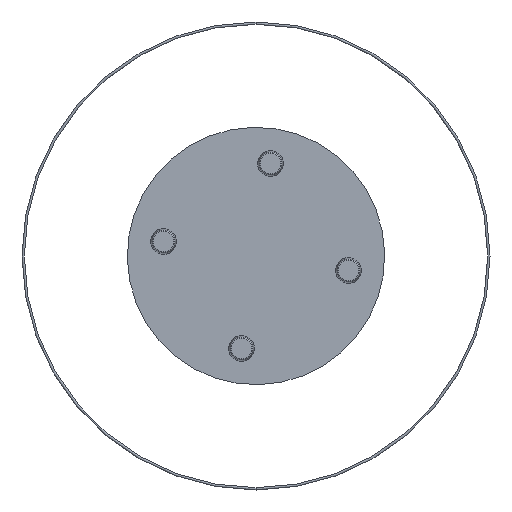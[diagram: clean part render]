
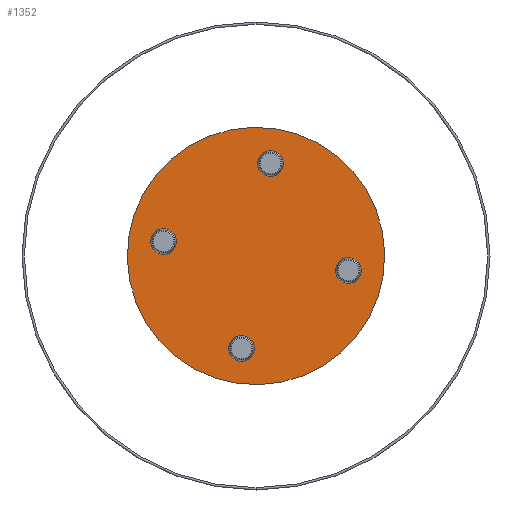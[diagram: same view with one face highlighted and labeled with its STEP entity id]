
A CAD part, front view. The second image highlights one B-rep face of the part: STEP entity #1352.
In plain terms, the highlighted planar face has unit normal (0, -1, 0).
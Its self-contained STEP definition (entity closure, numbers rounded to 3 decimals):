
#279 = DIRECTION ( 'NONE',  ( 0., 0., 1. ) ) ;
#292 = EDGE_CURVE ( 'NONE', #2794, #3335, #358, .T. ) ;
#330 = AXIS2_PLACEMENT_3D ( 'NONE', #2577, #781, #5215 ) ;
#358 = CIRCLE ( 'NONE', #330, 110. ) ;
#781 = DIRECTION ( 'NONE',  ( 0., 1., 0. ) ) ;
#860 = EDGE_LOOP ( 'NONE', ( #5175, #984 ) ) ;
#984 = ORIENTED_EDGE ( 'NONE', *, *, #292, .F. ) ;
#1352 = ADVANCED_FACE ( 'NONE', ( #3425 ), #2006, .F. ) ;
#1576 = DIRECTION ( 'NONE',  ( 0., 1., 0. ) ) ;
#2006 = PLANE ( 'NONE',  #4677 ) ;
#2468 = CARTESIAN_POINT ( 'NONE',  ( 0., 0., -110. ) ) ;
#2502 = DIRECTION ( 'NONE',  ( 0., 1., 0. ) ) ;
#2577 = CARTESIAN_POINT ( 'NONE',  ( 0., 0., 0. ) ) ;
#2794 = VERTEX_POINT ( 'NONE', #4560 ) ;
#3335 = VERTEX_POINT ( 'NONE', #2468 ) ;
#3425 = FACE_OUTER_BOUND ( 'NONE', #860, .T. ) ;
#3683 = EDGE_CURVE ( 'NONE', #3335, #2794, #4859, .T. ) ;
#4560 = CARTESIAN_POINT ( 'NONE',  ( 0., 0., 110. ) ) ;
#4677 = AXIS2_PLACEMENT_3D ( 'NONE', #5554, #1576, #5512 ) ;
#4859 = CIRCLE ( 'NONE', #5205, 110. ) ;
#5175 = ORIENTED_EDGE ( 'NONE', *, *, #3683, .F. ) ;
#5205 = AXIS2_PLACEMENT_3D ( 'NONE', #5553, #2502, #279 ) ;
#5215 = DIRECTION ( 'NONE',  ( 0., 0., 1. ) ) ;
#5512 = DIRECTION ( 'NONE',  ( 0., 0., 1. ) ) ;
#5553 = CARTESIAN_POINT ( 'NONE',  ( 0., 0., 0. ) ) ;
#5554 = CARTESIAN_POINT ( 'NONE',  ( 0., 0., 0. ) ) ;
